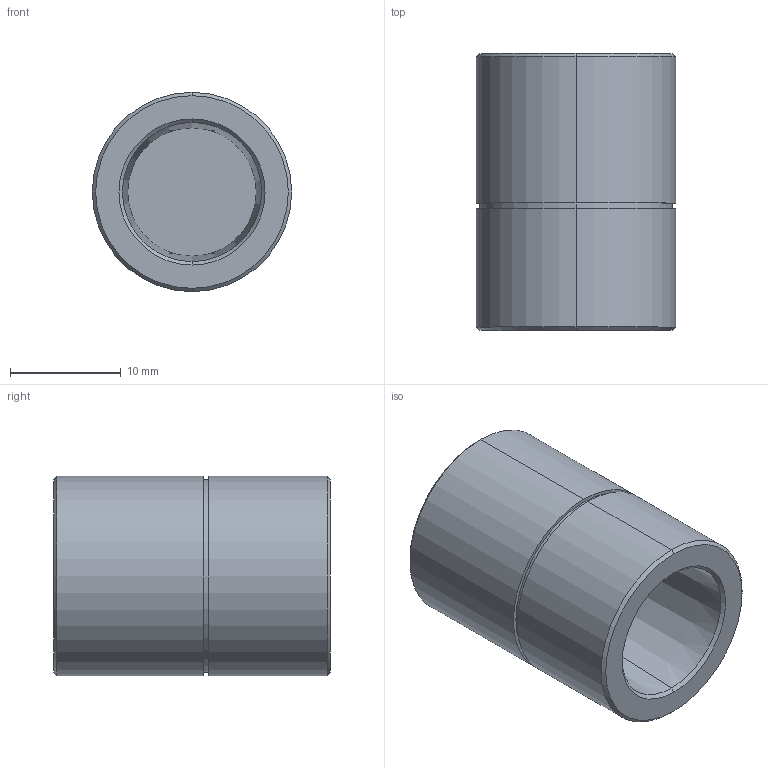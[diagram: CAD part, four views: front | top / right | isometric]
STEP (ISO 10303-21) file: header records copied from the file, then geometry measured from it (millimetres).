
FILE_DESCRIPTION (( 'STEP AP203' ), '1' );
FILE_NAME ('SW-PN-F8-18D-T.STEP', '2022-03-28T07:05:57', ( '' ), ( '' ), 'SwSTEP 2.0', 'SolidWorks 2015', '' );
FILE_SCHEMA (( 'CONFIG_CONTROL_DESIGN' ));
Length unit declared in the file: millimetre
Products named in the file (2): SW-PN-F8-18D-T
Bounding box: 18 x 25 x 18 mm (x, y, z)
Volume: 4477 mm3; surface area: 2632.4 mm2
Topology: 1 solids, 1 shells, 22 faces, 42 edges, 26 vertices
Faces by surface type: cylinder 8, cone 8, plane 6
Entity records: 719 total; most frequent: DIRECTION 116, CARTESIAN_POINT 92, ORIENTED_EDGE 84, AXIS2_PLACEMENT_3D 50, EDGE_CURVE 42, EDGE_LOOP 26, VERTEX_POINT 26, CIRCLE 26
